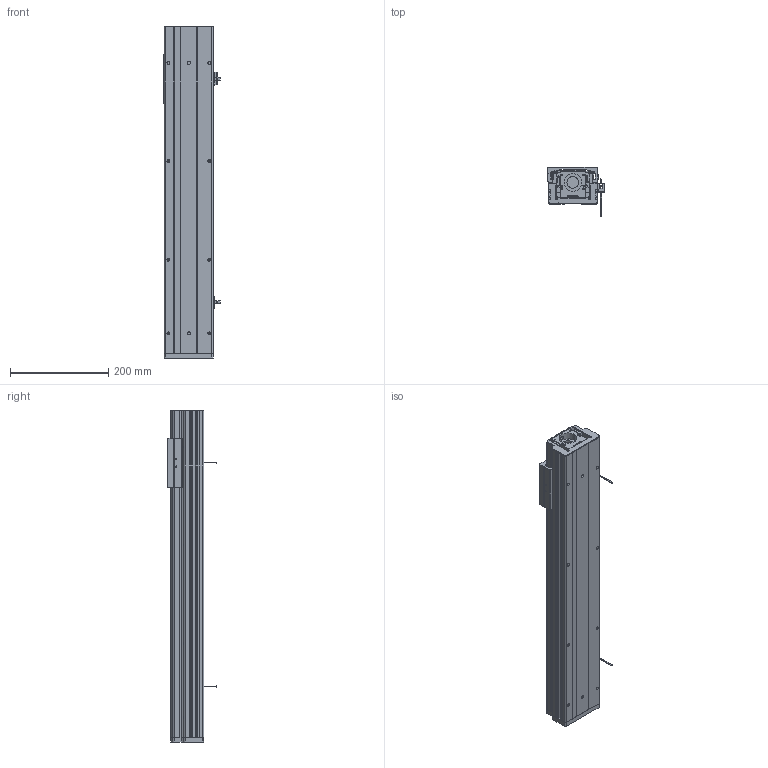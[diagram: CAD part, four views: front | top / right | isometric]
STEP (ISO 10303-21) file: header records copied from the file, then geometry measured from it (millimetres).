
FILE_DESCRIPTION (( 'STEP AP203' ), '1' );
FILE_NAME ('CTHM10-S450-O-BC.STEP', '2019-12-18T01:17:06', ( '微软用户' ), ( '微软中国' ), 'SwSTEP 2.0', 'SolidWorks 2017', '' );
FILE_SCHEMA (( 'CONFIG_CONTROL_DESIGN' ));
Length unit declared in the file: millimetre
Products named in the file (11): CTHM10裔啣(100); CTHM10傷裔(祥結裔啣); CTHM10綴傷裔; 覜茼え; 遣喳蝶15x12x8; CTHM10菁釱(200); EE-SX672-BR; CTHM10痄雄釱(党蜊); CTHM10-S450-O-BC; CTHM10盓傅耜; CTHM10固定侧自制轴承座
Assembly tree (14 placements, depth 2):
  CTHM10-S450-O-BC
    CTHM10菁釱(200)
    CTHM10痄雄釱(党蜊)
    CTHM10盓傅耜
    CTHM10固定侧自制轴承座
    CTHM10裔啣(100)
    CTHM10傷裔(祥結裔啣)
    CTHM10綴傷裔
    覜茼え
    遣喳蝶15x12x8  x4
    EE-SX672-BR  x2
Bounding box: 114.7 x 100.2 x 675 mm (x, y, z)
Volume: 1862300.3 mm3; surface area: 627958.1 mm2
Topology: 14 solids, 14 shells, 940 faces, 2662 edges, 1736 vertices
Faces by surface type: cylinder 501, plane 395, cone 44
Entity records: 31793 total; most frequent: CARTESIAN_POINT 7669, DIRECTION 4832, ORIENTED_EDGE 4796, EDGE_CURVE 2398, AXIS2_PLACEMENT_3D 1765, VERTEX_POINT 1584, VECTOR 1302, LINE 1302
